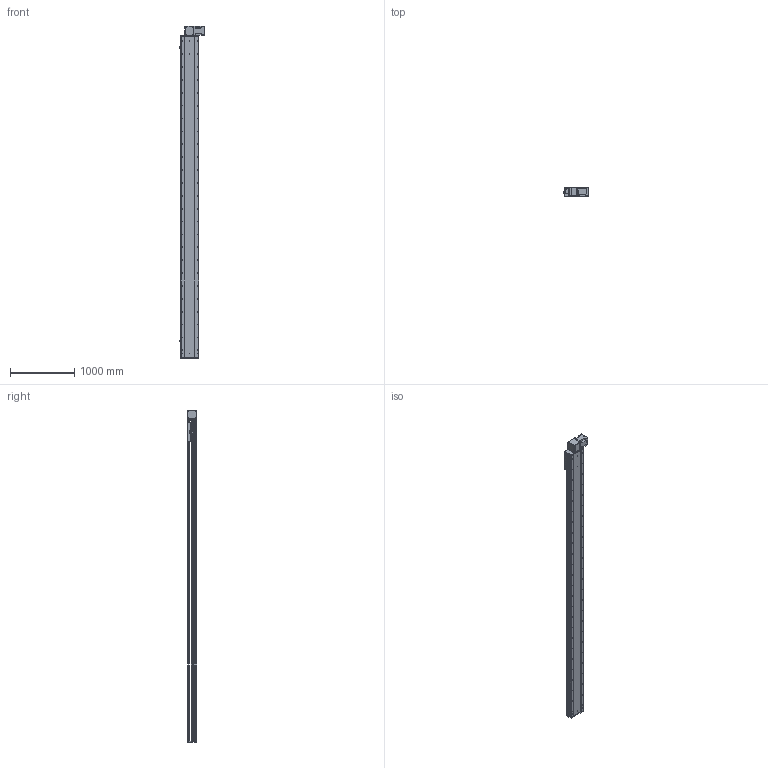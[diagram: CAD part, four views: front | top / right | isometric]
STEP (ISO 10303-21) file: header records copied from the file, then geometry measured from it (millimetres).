
FILE_DESCRIPTION (( 'STEP AP214' ), '1' );
FILE_NAME ('RTB28S-XX-4550-BL-M100-XX-C4.STEP', '2025-12-22T02:46:39', ( '' ), ( '' ), 'SwSTEP 2.0', 'SolidWorks 2018', '' );
FILE_SCHEMA (( 'AUTOMOTIVE_DESIGN' ));
Length unit declared in the file: millimetre
Products named in the file (4): RTB28S-GY-008^RTB28S-XX-XX-BL-M100-XX-C4; RTB28S-GY-011^RTB28S-XX-XX-BL-M100-XX-C4; RTB28S-GY-004^RTB28S-XX-XX-BL-M100-XX-C4; RTB28S-XX-4550-BL-M100-XX-C4
Assembly tree (3 placements, depth 2):
  RTB28S-XX-4550-BL-M100-XX-C4
    RTB28S-GY-011^RTB28S-XX-XX-BL-M100-XX-C4
    RTB28S-GY-004^RTB28S-XX-XX-BL-M100-XX-C4
    RTB28S-GY-008^RTB28S-XX-XX-BL-M100-XX-C4
Bounding box: 380.7 x 145 x 5157 mm (x, y, z)
Volume: 85513693.3 mm3; surface area: 7907727 mm2
Topology: 3 solids, 4 shells, 968 faces, 2628 edges, 1688 vertices
Faces by surface type: cylinder 503, plane 381, cone 80, torus 4
Entity records: 38261 total; most frequent: CARTESIAN_POINT 7702, DIRECTION 5610, ORIENTED_EDGE 5192, EDGE_CURVE 2596, AXIS2_PLACEMENT_3D 2100, VERTEX_POINT 1688, LINE 1410, VECTOR 1410
